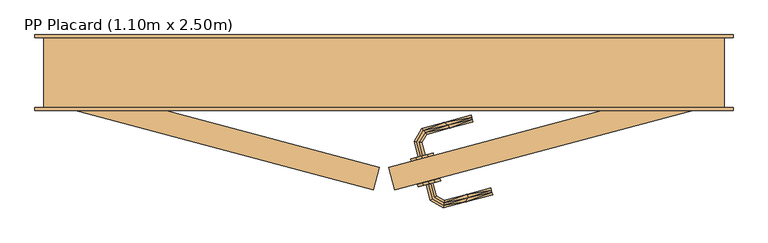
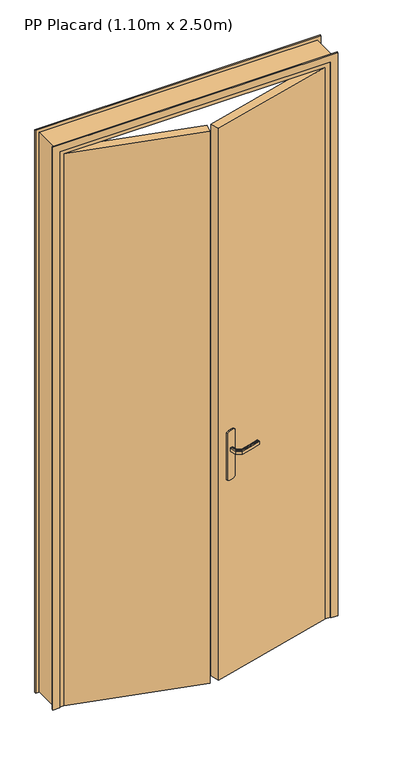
"""IFC4 building model written with IfcOpenShell, lengths in millimetres: door geometry, PP Placard (1.10m x 2.50m)."""

from ifc_helpers import new_model, si_unit, frame, origin, origin_with_axes, place, context, project, spatial, polyline, outline, extrude, faceted_brep, source, transform, mapped, element, save


def pp_placard_1_10m_x_2_50m_3aa56ffd(model_context):
    return source(origin(), model_context, "Body", "SolidModel", [
        extrude(outline(polyline([(0.0, 0.0), (3.0658951, 9.9818657), (212.1249722, 29.8389109), (217.015302, 20.6127508), (219.3510918, 10.4352539), (218.9731616, 0.0), (215.9072666, -9.9818657), (6.8481894, -29.8389109), (1.9578596, -20.6127508), (-0.3779302, -10.4352539), (0.0, 0.0)])), frame((661.3435833, -85.5048071, 866.0039831), z_axis=(-0.25881904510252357, 0.9659258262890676, 0.0), x_axis=(-0.09133539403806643, -0.024473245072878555, 0.9955194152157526)), (0.0, 0.0, 1.0), 5.0),
        extrude(outline(polyline([(0.0, 0.0), (3.065895, 9.9818658), (212.1249722, 29.838911), (217.015302, 20.6127508), (219.3510918, 10.4352539), (218.9731616, 0.0), (215.9072666, -9.9818657), (6.8481894, -29.8389108), (1.9578596, -20.6127508), (-0.3779302, -10.4352539), (0.0, 0.0)])), frame((672.9904403, -128.9714693, 866.0039831), z_axis=(-0.2588190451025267, 0.9659258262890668, 0.0), x_axis=(-0.09133539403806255, -0.024473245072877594, 0.9955194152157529)), (0.0, 0.0, 1.0), 5.0),
        extrude(outline(polyline([(0.0, -15.0), (0.0, 15.0), (2470.0, 15.0), (2470.0, 1155.0), (0.0, 1155.0), (0.0, 1185.0), (2500.0, 1185.0), (2500.0, -15.0), (0.0, -15.0)])), frame((0.0, -5.0, 0.0), z_axis=(0.0, 1.0, 0.0), x_axis=(0.0, 0.0, 1.0)), (0.0, 0.0, 1.0), 5.0),
        faceted_brep([(0.0, 0.0, 0.0), (0.0, 120.0, 0.0), (50.0, 120.0, 0.0), (50.0, 40.0, 0.0), (35.0, 40.0, 0.0), (35.0, 0.0, 0.0), (0.0, 0.0, 2485.0), (0.0, 120.0, 2485.0), (1170.0, 120.0, 2485.0), (1170.0, 120.0, 0.0), (1120.0, 120.0, 0.0), (1120.0, 120.0, 2435.0), (50.0, 120.0, 2435.0), (50.0, 40.0, 2435.0), (1120.0, 40.0, 2435.0), (1120.0, 40.0, 0.0), (1135.0, 40.0, 0.0), (1135.0, 40.0, 2450.0), (35.0, 40.0, 2450.0), (35.0, 0.0, 2450.0), (1135.0, 0.0, 2450.0), (1135.0, 0.0, 0.0), (1170.0, 0.0, 0.0), (1170.0, 0.0, 2485.0)], [[[0, 1, 2, 3, 4, 5]], [[1, 0, 6, 7]], [[2, 1, 7, 8, 9, 10, 11, 12]], [[3, 2, 12, 13]], [[4, 3, 13, 14, 15, 16, 17, 18]], [[5, 4, 18, 19]], [[0, 5, 19, 20, 21, 22, 23, 6]], [[8, 23, 22, 9]], [[22, 21, 16, 15, 10, 9]], [[14, 11, 10, 15]], [[20, 17, 16, 21]], [[7, 6, 23, 8]], [[13, 12, 11, 14]], [[19, 18, 17, 20]]]),
        faceted_brep([(648.0931998, -83.8788558, 1007.7804408), (644.2539331, -84.9075842, 1007.0), (644.2539331, -84.9075842, 993.0), (648.0931998, -83.8788558, 992.2195592), (652.0057764, -82.8304841, 992.2195592), (655.845043, -81.8017556, 993.0), (655.845043, -81.8017556, 1007.0), (652.0057764, -82.8304841, 1007.7804408), (650.0254439, -60.0827159, 993.0), (650.0254439, -60.0827159, 1007.0), (645.760064, -59.521168, 1007.7804408), (655.5277595, -42.603023, 1007.7804408), (652.8587455, -39.1246963, 1007.7804408), (641.4132376, -58.9488974, 1007.7804408), (637.1478577, -58.3873495, 1007.0), (637.1478577, -58.3873495, 993.0), (641.4132376, -58.9488974, 992.2195592), (652.8587455, -39.1246963, 992.2195592), (655.5277595, -42.603023, 992.2195592), (645.760064, -59.521168, 992.2195592), (658.1467642, -46.0161764, 993.0), (658.1467642, -46.0161764, 1007.0), (650.2397408, -35.7115428, 1007.0), (650.2397408, -35.7115428, 993.0), (737.8940856, -24.6479461, 993.0), (736.8653572, -20.8086794, 992.2195592), (735.8169855, -16.8961028, 992.2195592), (734.7882571, -13.0568362, 993.0), (734.7882571, -13.0568362, 1007.0), (735.8169855, -16.8961028, 1007.7804408), (736.8653572, -20.8086794, 1007.7804408), (737.8940856, -24.6479461, 1007.0), (698.0204134, -35.3320643, 993.0), (698.0204249, -35.3320613, 1007.0), (695.6723725, -29.7495629, 1007.8786868), (688.8096296, -25.3767723, 1007.0), (688.8096282, -25.3767727, 993.0), (695.6723727, -29.7495629, 992.1213132)], [[[0, 1, 2, 3, 4, 5, 6, 7]], [[6, 5, 8, 9]], [[9, 10, 7, 6]], [[10, 11, 12, 13, 0, 7]], [[13, 14, 1, 0]], [[2, 1, 14, 15]], [[15, 16, 3, 2]], [[16, 17, 18, 19, 4, 3]], [[19, 8, 5, 4]], [[9, 8, 20, 21]], [[21, 11, 10, 9]], [[12, 22, 14, 13]], [[15, 14, 22, 23]], [[23, 17, 16, 15]], [[18, 20, 8, 19]], [[24, 25, 26, 27, 28, 29, 30, 31]], [[21, 20, 32, 24, 31, 33]], [[33, 30, 34]], [[35, 34, 29]], [[21, 33, 11]], [[33, 31, 30]], [[28, 35, 29]], [[22, 12, 35]], [[35, 12, 34]], [[12, 11, 34]], [[11, 33, 34]], [[29, 34, 30]], [[22, 35, 28, 27, 36, 23]], [[36, 26, 37]], [[27, 26, 36]], [[17, 23, 36]], [[37, 32, 18]], [[20, 18, 32]], [[32, 25, 24]], [[26, 25, 37]], [[25, 32, 37]], [[17, 36, 37]], [[17, 37, 18]]]),
        extrude(outline(polyline([(576.6119663, -103.7134418), (566.2592045, -142.3504748), (35.0, 0.0), (45.3527618, 38.6370331), (576.6119663, -103.7134418)])), origin_with_axes(), (0.0, 0.0, 1.0), 2450.0),
        faceted_brep([(661.0341521, -132.1751471, 1007.7804408), (664.9467286, -131.1267754, 1007.7804408), (668.7859953, -130.098047, 1007.0), (668.7859953, -130.098047, 993.0), (664.9467286, -131.1267754, 992.2195592), (661.0341521, -132.1751471, 992.2195592), (657.1948854, -133.2038755, 993.0), (657.1948854, -133.2038755, 1007.0), (664.351478, -159.9126429, 1007.0), (667.7646315, -157.2936382, 1007.7804408), (687.4204196, -168.6419128, 1007.7804408), (687.9926902, -164.2950864, 1007.7804408), (671.2429582, -154.6246242, 1007.7804408), (674.6561117, -152.0056194, 1007.0), (674.6561117, -152.0056194, 993.0), (671.2429582, -154.6246242, 992.2195592), (687.9926902, -164.2950864, 992.2195592), (687.4204196, -168.6419128, 992.2195592), (667.7646315, -157.2936382, 992.2195592), (664.351478, -159.9126429, 993.0), (686.8588717, -172.9072927, 1007.0), (688.5542381, -160.0297065, 1007.0), (688.5542381, -160.0297065, 993.0), (686.8588717, -172.9072927, 993.0), (771.513993, -150.2240213, 993.0), (770.4852646, -146.3847546, 992.2195592), (769.4368929, -142.4721781, 992.2195592), (768.4081645, -138.6329114, 993.0), (768.4081645, -138.6329114, 1007.0), (769.4368929, -142.4721781, 1007.7804408), (770.4852646, -146.3847546, 1007.7804408), (771.513993, -150.2240213, 1007.0), (725.4287606, -162.5725221, 1007.0), (729.2389774, -155.3399205, 1007.8786868), (728.4812013, -149.3313089, 1007.0), (728.4812013, -149.3313089, 993.0), (729.2389773, -155.3399206, 992.1213132), (725.4287635, -162.5725214, 993.0)], [[[0, 1, 2, 3, 4, 5, 6, 7]], [[8, 9, 0, 7]], [[9, 10, 11, 12, 1, 0]], [[12, 13, 2, 1]], [[3, 2, 13, 14]], [[14, 15, 4, 3]], [[15, 16, 17, 18, 5, 4]], [[18, 19, 6, 5]], [[7, 6, 19, 8]], [[20, 10, 9, 8]], [[11, 21, 13, 12]], [[14, 13, 21, 22]], [[22, 16, 15, 14]], [[17, 23, 19, 18]], [[8, 19, 23, 20]], [[24, 25, 26, 27, 28, 29, 30, 31]], [[32, 30, 33]], [[31, 30, 32]], [[10, 20, 32]], [[33, 34, 11]], [[21, 11, 34]], [[34, 29, 28]], [[30, 29, 33]], [[29, 34, 33]], [[10, 32, 33]], [[10, 33, 11]], [[22, 21, 34, 28, 27, 35]], [[35, 26, 36]], [[37, 36, 25]], [[22, 35, 16]], [[35, 27, 26]], [[24, 37, 25]], [[23, 17, 37]], [[37, 17, 36]], [[17, 16, 36]], [[16, 35, 36]], [[25, 36, 26]], [[20, 23, 37, 24, 31, 32]]]),
        extrude(outline(polyline([(0.0, -15.0), (0.0, 15.0), (2470.0, 15.0), (2470.0, 1155.0), (0.0, 1155.0), (0.0, 1185.0), (2500.0, 1185.0), (2500.0, -15.0), (0.0, -15.0)])), frame((0.0, 120.0, 0.0), z_axis=(0.0, 1.0, 0.0), x_axis=(0.0, 0.0, 1.0)), (0.0, 0.0, 1.0), 5.0),
        extrude(outline(polyline([(593.3880337, -103.7134418), (1124.6472382, 38.6370331), (1135.0, 0.0), (603.7407955, -142.3504748), (593.3880337, -103.7134418)])), origin_with_axes(), (0.0, 0.0, 1.0), 2450.0),
    ])


if __name__ == "__main__":
    model = new_model("IFC4")
    model_context = context("Model", 3, world=origin())
    ifc_project = project(units=[si_unit("LENGTHUNIT", "METRE", prefix="MILLI")], contexts=[model_context])
    site = spatial("IfcSite", under=ifc_project)
    building = spatial("IfcBuilding", under=site)
    placement = place(None, origin())
    pp_placard_1_10m_x_2_50m_shape = pp_placard_1_10m_x_2_50m_3aa56ffd(model_context)
    element("IfcDoor", 1, ObjectType="PP Placard (1.10m x 2.50m)", at=placement, inside=building, context=model_context, shape_type="MappedRepresentation", body=[
        mapped(pp_placard_1_10m_x_2_50m_shape, transform((0.0, 0.0, 0.0), x_axis=(1.0, 0.0, 0.0), y_axis=(0.0, 1.0, 0.0), z_axis=(0.0, 0.0, 1.0))),
    ])
    save(model, "model.ifc")
